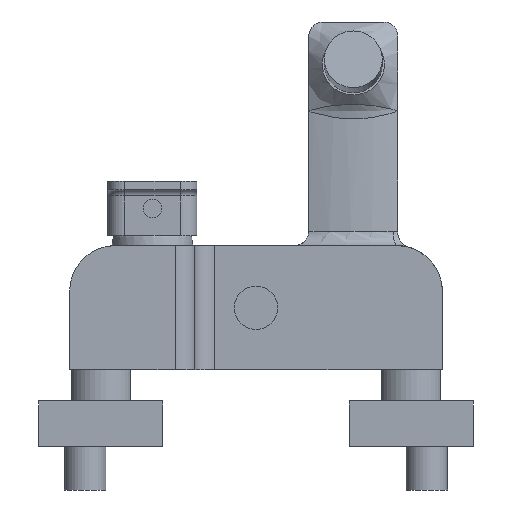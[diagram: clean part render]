
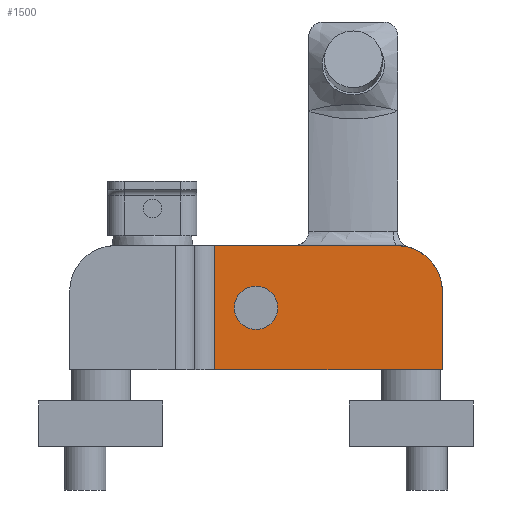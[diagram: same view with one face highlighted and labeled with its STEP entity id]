
A CAD part, front view. The second image highlights one B-rep face of the part: STEP entity #1500.
In plain terms, the highlighted planar face has unit normal (0, -1, 0).
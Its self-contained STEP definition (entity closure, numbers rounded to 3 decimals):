
#22=FACE_BOUND('',#476,.T.);
#97=LINE('',#2489,#234);
#99=LINE('',#2494,#236);
#110=LINE('',#4860,#247);
#112=LINE('',#4864,#249);
#113=LINE('',#4865,#250);
#234=VECTOR('',#1887,10.);
#236=VECTOR('',#1893,10.);
#247=VECTOR('',#1928,10.);
#249=VECTOR('',#1932,10.);
#250=VECTOR('',#1933,10.);
#386=FACE_OUTER_BOUND('',#475,.T.);
#475=EDGE_LOOP('',(#1167,#1168,#1169,#1170,#1171,#1172));
#476=EDGE_LOOP('',(#1173));
#568=CIRCLE('',#1641,22.);
#569=CIRCLE('',#1644,10.5);
#661=VERTEX_POINT('',#2486);
#662=VERTEX_POINT('',#2488);
#663=VERTEX_POINT('',#2492);
#677=VERTEX_POINT('',#4855);
#678=VERTEX_POINT('',#4859);
#679=VERTEX_POINT('',#4863);
#680=VERTEX_POINT('',#4866);
#835=EDGE_CURVE('',#662,#661,#97,.T.);
#838=EDGE_CURVE('',#663,#661,#99,.T.);
#858=EDGE_CURVE('',#662,#677,#568,.T.);
#860=EDGE_CURVE('',#677,#678,#110,.T.);
#862=EDGE_CURVE('',#679,#663,#112,.T.);
#863=EDGE_CURVE('',#678,#679,#113,.T.);
#864=EDGE_CURVE('',#680,#680,#569,.T.);
#1167=ORIENTED_EDGE('',*,*,#858,.F.);
#1168=ORIENTED_EDGE('',*,*,#835,.T.);
#1169=ORIENTED_EDGE('',*,*,#838,.F.);
#1170=ORIENTED_EDGE('',*,*,#862,.F.);
#1171=ORIENTED_EDGE('',*,*,#863,.F.);
#1172=ORIENTED_EDGE('',*,*,#860,.F.);
#1173=ORIENTED_EDGE('',*,*,#864,.T.);
#1423=PLANE('',#1643);
#1500=ADVANCED_FACE('',(#386,#22),#1423,.T.);
#1641=AXIS2_PLACEMENT_3D('',#4856,#1923,#1924);
#1643=AXIS2_PLACEMENT_3D('',#4862,#1930,#1931);
#1644=AXIS2_PLACEMENT_3D('',#4867,#1934,#1935);
#1887=DIRECTION('',(-1.,0.,0.));
#1893=DIRECTION('',(0.,0.,1.));
#1923=DIRECTION('center_axis',(0.,1.,0.));
#1924=DIRECTION('ref_axis',(0.707,0.,0.707));
#1928=DIRECTION('',(0.,0.,-1.));
#1930=DIRECTION('center_axis',(0.,-1.,0.));
#1931=DIRECTION('ref_axis',(-1.,0.,0.));
#1932=DIRECTION('',(-1.,0.,0.));
#1933=DIRECTION('',(-1.,0.,0.));
#1934=DIRECTION('center_axis',(0.,1.,0.));
#1935=DIRECTION('ref_axis',(0.,0.,
1.));
#2486=CARTESIAN_POINT('',(-19.25,-15.5,-0.25));
#2488=CARTESIAN_POINT('',(68.75,-15.5,-0.25));
#2489=CARTESIAN_POINT('',(90.75,-15.5,-0.25));
#2492=CARTESIAN_POINT('',(-19.25,-15.5,-60.25));
#2494=CARTESIAN_POINT('',(-19.25,-15.5,-0.25));
#4855=CARTESIAN_POINT('',(90.75,-15.5,-22.25));
#4856=CARTESIAN_POINT('Origin',(68.75,-15.5,-22.25));
#4859=CARTESIAN_POINT('',(90.75,-15.5,-60.25));
#4860=CARTESIAN_POINT('',(90.75,-15.5,-0.25));
#4862=CARTESIAN_POINT('Origin',(90.75,-15.5,-0.25));
#4863=CARTESIAN_POINT('',(75.75,-15.5,-60.25));
#4864=CARTESIAN_POINT('',(90.75,-15.5,-60.25));
#4865=CARTESIAN_POINT('',(90.75,-15.5,-60.25));
#4866=CARTESIAN_POINT('',(0.75,-15.5,-40.75));
#4867=CARTESIAN_POINT('Origin',(0.75,-15.5,-30.25));
